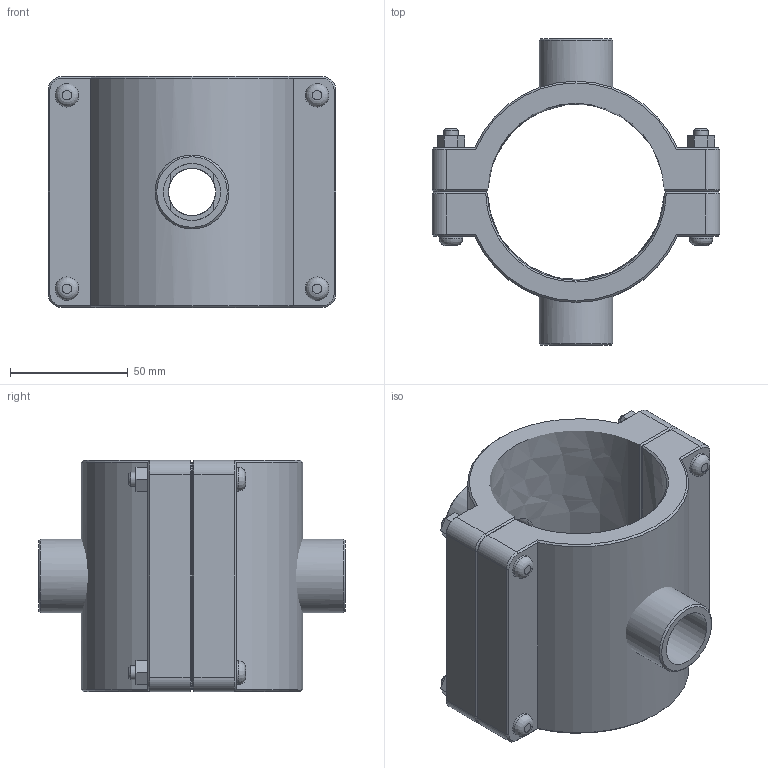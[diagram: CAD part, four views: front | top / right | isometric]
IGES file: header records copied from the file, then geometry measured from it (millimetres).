
Global section: file name: 161760075007_161860075007.ipt; native system: Autodesk Inventor 2015; preprocessor: unknown; author: KIM; date: 20170618.093713; units: millimetre
Bounding box: 122 x 130 x 98 mm (x, y, z)
Volume: 369550.2 mm3; surface area: 84818.2 mm2
Topology: 3 solids, 3 shells, 159 faces, 373 edges, 236 vertices
Faces by surface type: plane 88, cone 26, cylinder 24, revolution 21
Full cylindrical faces by diameter (mm): 6 x4, 10 x8, 31.352 x2
